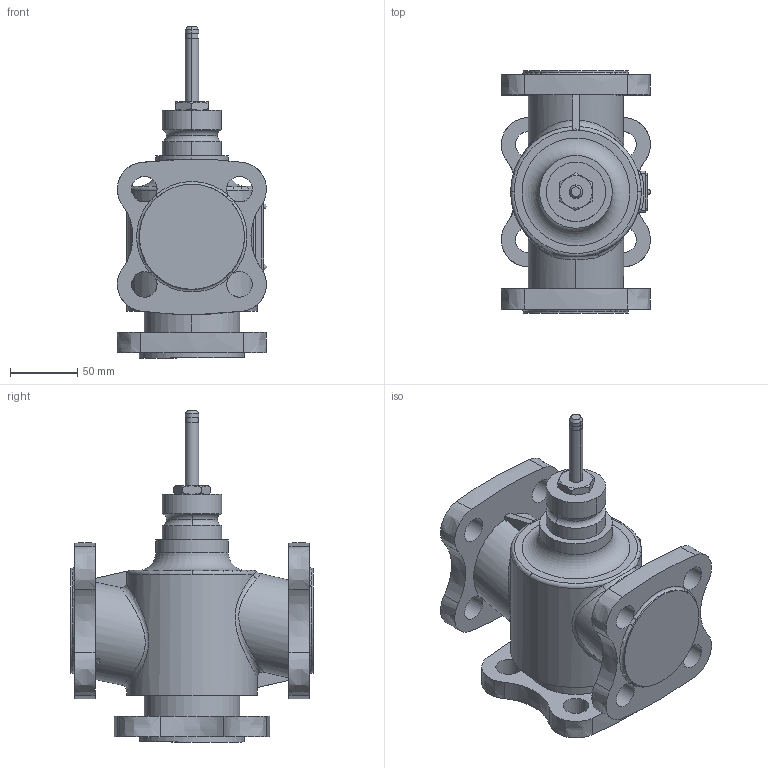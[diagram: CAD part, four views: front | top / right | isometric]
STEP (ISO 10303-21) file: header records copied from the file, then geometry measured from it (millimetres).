
FILE_DESCRIPTION(/* description */ ('Step214'),/* implementation_level */ '2;1');
FILE_NAME(/* name */ 'VXF53 DN32 RF.stp',/* time_stamp */ '2015-11-04T14:04:50+01:00',/* author */ (''),/* organization */ ('Siemens'),/* preprocessor_version */ 'ST-DEVELOPER v15',/* originating_system */ 'SIEMENS PLM Software NX 8.5',/* authorisation */ 'for Duktil only');
FILE_SCHEMA (('AUTOMOTIVE_DESIGN { 1 0 10303 214 3 1 1 1 }'));
Length unit declared in the file: millimetre
Products named in the file (1): Volc0CEC07D0aftt
Bounding box: 110.83 x 180 x 246.5 mm (x, y, z)
Volume: 1594969.4 mm3; surface area: 139231.1 mm2
Topology: 1 solids, 1 shells, 150 faces, 402 edges, 257 vertices
Faces by surface type: cylinder 44, plane 41, extrusion 24, torus 17, bspline 16, cone 6, sphere 2
Full cylindrical faces by diameter (mm): 19 x12, 54 x1, 78 x3
Entity records: 7426 total; most frequent: CARTESIAN_POINT 3967, ORIENTED_EDGE 730, DIRECTION 650, EDGE_CURVE 365, AXIS2_PLACEMENT_3D 262, VERTEX_POINT 241, EDGE_LOOP 198, ADVANCED_FACE 150
